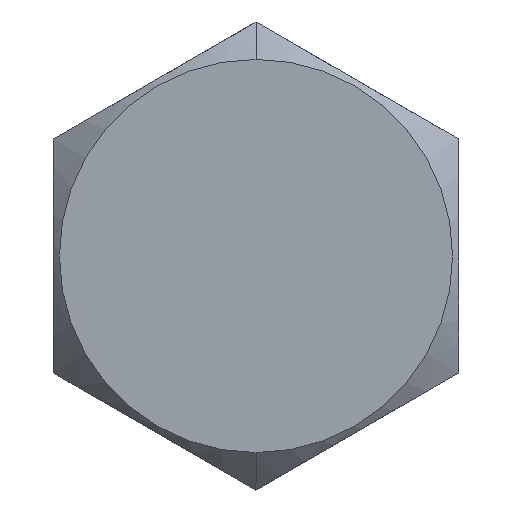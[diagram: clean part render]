
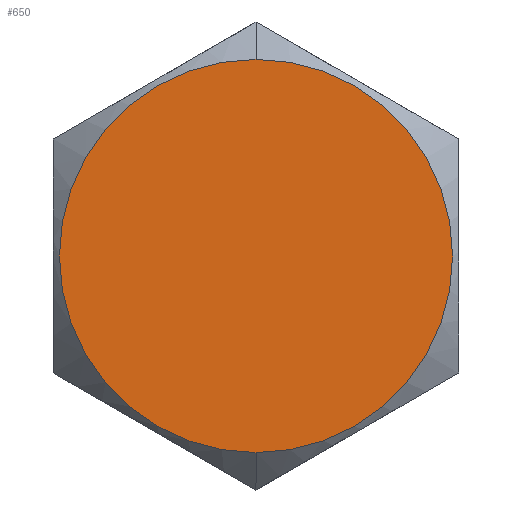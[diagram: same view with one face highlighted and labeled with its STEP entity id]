
A CAD part, left-side view. The second image highlights one B-rep face of the part: STEP entity #650.
In plain terms, the highlighted planar face has unit normal (-1, 0, 0).
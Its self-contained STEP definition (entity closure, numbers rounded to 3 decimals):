
#8 = CIRCLE ( 'NONE', #332, 6.306 ) ;
#36 = CIRCLE ( 'NONE', #422, 6.306 ) ;
#93 = AXIS2_PLACEMENT_3D ( 'NONE', #765, #390, #393 ) ;
#103 = EDGE_CURVE ( 'NONE', #257, #421, #8, .T. ) ;
#157 = PLANE ( 'NONE',  #93 ) ;
#202 = CARTESIAN_POINT ( 'NONE',  ( 0., 0., 0. ) ) ;
#210 = ORIENTED_EDGE ( 'NONE', *, *, #103, .F. ) ;
#238 = CARTESIAN_POINT ( 'NONE',  ( 0., 0., 0. ) ) ;
#257 = VERTEX_POINT ( 'NONE', #566 ) ;
#332 = AXIS2_PLACEMENT_3D ( 'NONE', #238, #790, #558 ) ;
#348 = EDGE_CURVE ( 'NONE', #421, #257, #36, .T. ) ;
#390 = DIRECTION ( 'NONE',  ( 1., 0., 0. ) ) ;
#393 = DIRECTION ( 'NONE',  ( 0., 0., -1. ) ) ;
#421 = VERTEX_POINT ( 'NONE', #478 ) ;
#422 = AXIS2_PLACEMENT_3D ( 'NONE', #202, #455, #702 ) ;
#455 = DIRECTION ( 'NONE',  ( 1., 0., 0. ) ) ;
#478 = CARTESIAN_POINT ( 'NONE',  ( 0., 0., 6.306 ) ) ;
#558 = DIRECTION ( 'NONE',  ( 0., 0., -1. ) ) ;
#566 = CARTESIAN_POINT ( 'NONE',  ( 0., 0., -6.306 ) ) ;
#577 = FACE_OUTER_BOUND ( 'NONE', #630, .T. ) ;
#630 = EDGE_LOOP ( 'NONE', ( #210, #726 ) ) ;
#650 = ADVANCED_FACE ( 'NONE', ( #577 ), #157, .F. ) ;
#702 = DIRECTION ( 'NONE',  ( 0., 0., -1. ) ) ;
#726 = ORIENTED_EDGE ( 'NONE', *, *, #348, .F. ) ;
#765 = CARTESIAN_POINT ( 'NONE',  ( 0., 0., 0. ) ) ;
#790 = DIRECTION ( 'NONE',  ( 1., 0., 0. ) ) ;
